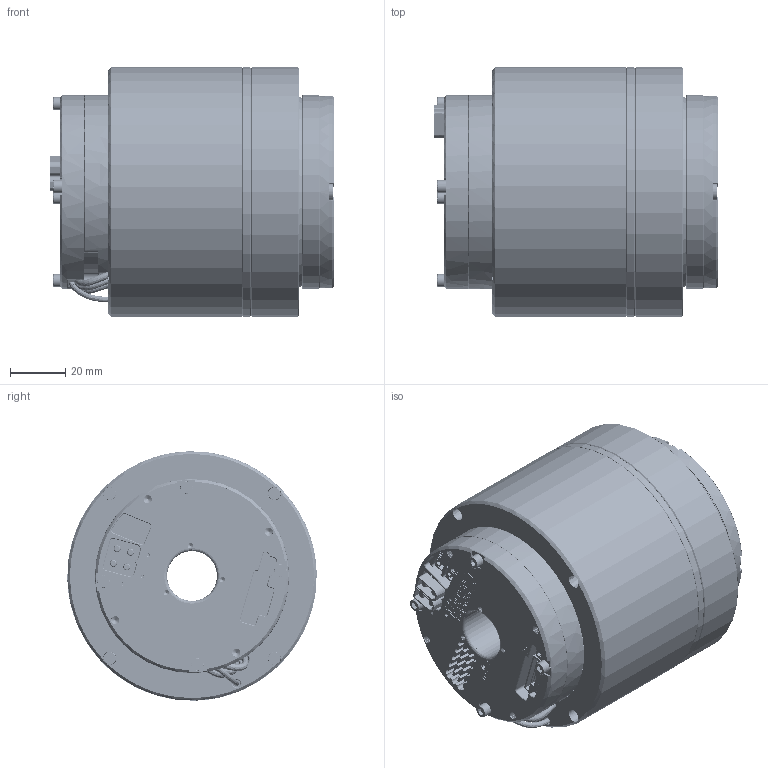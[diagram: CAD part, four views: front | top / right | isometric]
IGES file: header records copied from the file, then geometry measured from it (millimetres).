
Start section: SolidWorks IGES file using analytic representation for surfaces
Global section: file name: 45HG:\李鸿彬\解密模型20240411\官网更新整理\I型\eRob90 I型\eRob90 I型（V3）\eRob90H××I-XX-18CX_V3_MC2A.BX.XX\eRob90H××I-XX-18CX_V3_MC2A.BX.XX.igs; native system: SolidWorks 2021; preprocessor: SolidWorks 2021; author: ZERO; date: 240411.104801; units: millimetre
Bounding box: 102.3 x 90 x 90 mm (x, y, z)
Surface area: 59038.7 mm2 (no closed solid volume)
Topology: 0 solids, 0 shells, 4076 faces, 52701 edges, 52635 vertices
Faces by surface type: bspline 2443, revolution 1633
